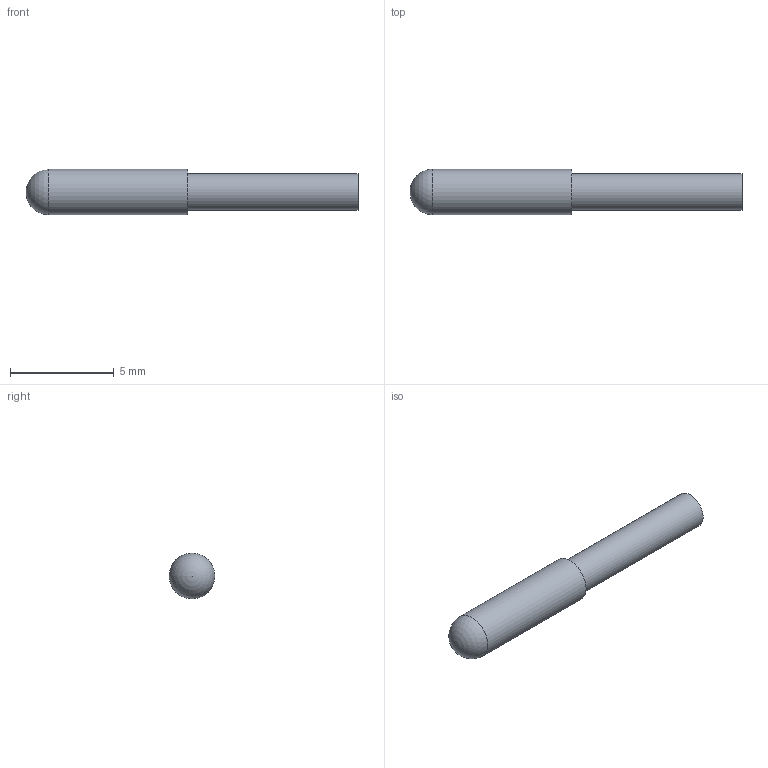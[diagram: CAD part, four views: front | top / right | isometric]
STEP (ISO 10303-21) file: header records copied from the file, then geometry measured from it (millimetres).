
FILE_DESCRIPTION( ( 'STEP AP203' ), '1' );
FILE_NAME( 'C:/Temp/Ganter_Step_05_03_2020/data/3_1/gn610/Spring loaded shell GN 610-2,2-16-H.stp', '2020-03-12T08:33:17', ( 'License CC BY-ND 4.0' ), ( 'CADENAS' ), ' ', 'PARTsolutions', ' ' );
FILE_SCHEMA( ( 'CONFIG_CONTROL_DESIGN' ) );
Length unit declared in the file: millimetre
Products named in the file (1): _Spring loaded shell GN 610-2,2-16-H
Bounding box: 16 x 2.2 x 2.2 mm (x, y, z)
Volume: 32.5 mm3; surface area: 143.2 mm2
Topology: 1 solids, 1 shells, 7 faces, 12 edges, 8 vertices
Faces by surface type: cylinder 3, plane 3, sphere 1
Full cylindrical faces by diameter (mm): 1.56 x1, 1.76 x1, 2.2 x1
Entity records: 182 total; most frequent: DIRECTION 28, CARTESIAN_POINT 21, AXIS2_PLACEMENT_3D 14, EDGE_LOOP 12, ORIENTED_EDGE 12, FACE_OUTER_BOUND 10, ADVANCED_FACE 7, VERTEX_POINT 7
